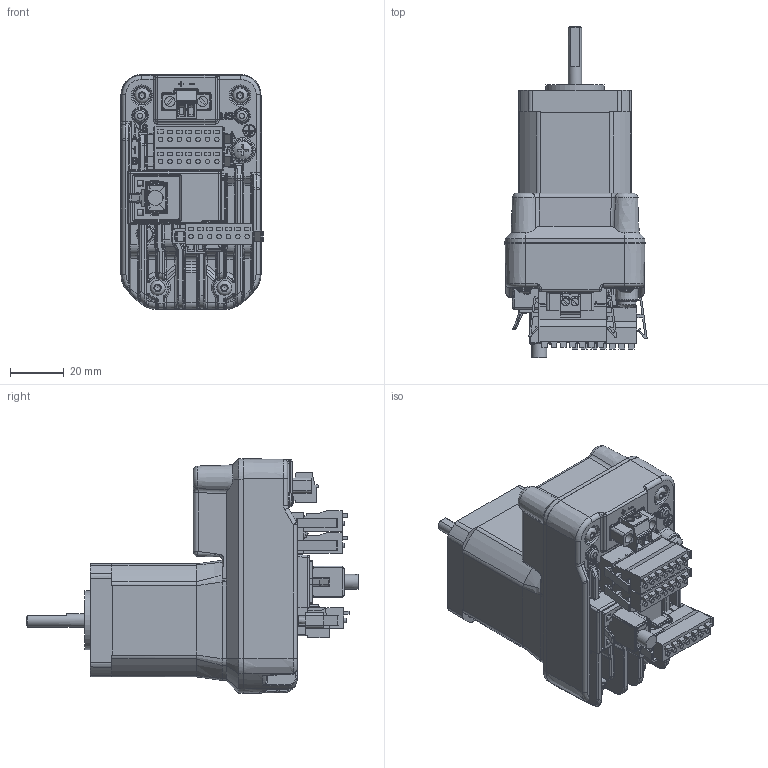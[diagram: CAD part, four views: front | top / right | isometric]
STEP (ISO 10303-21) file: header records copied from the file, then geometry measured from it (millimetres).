
FILE_DESCRIPTION(('LMDXE42-Triple-Stack Web Model'),'1');
FILE_NAME('C:/temp/LMDXE42-Triple-Stack Web Model.stp', '2013-09-24T14:32:31',('P. Bordua, 09/24/13'), ('Schneider Electric Motion USA'), 'KCM Version 1.1.794.0', 'Kubotek KeyCreator', 'Kubotek KeyCreator 2014 V12.0');
FILE_SCHEMA(('AUTOMOTIVE_DESIGN'));
Length unit declared in the file: inch
Products named in the file (6): Dinkle 0221-24-B3085308P, Pin-5 Keyed, Plug, 3.50mm Pitch, 7 x 1 Pos., Locking Tabs[Part1]; Dinkle 0221-24-B3085308P, Pin-2 Keyed, Plug, 3.50mm Pitch, 7 x 1 Pos., Locking Tabs[Part1]; Dinkle EC350VM-B3081302P, Plug, 3.50 mm, 2 x 1 Pos[Part1]; RJ45 Mate[Part1]
Bounding box: 53.03 x 123.94 x 87.6 mm (x, y, z)
Volume: 226943.5 mm3; surface area: 51204.7 mm2
Topology: 9 solids, 13 shells, 4293 faces, 10953 edges, 6940 vertices
Faces by surface type: plane 2401, cylinder 1007, bspline 607, cone 111, torus 100, sphere 67
Full cylindrical faces by diameter (mm): 1.6 x31, 1.611 x4, 1.686 x28, 2.449 x4, 2.5 x2, 3.505 x1, 3.792 x4, 5 x1, 5.004 x2, 5.588 x2, 5.6 x4, 6.858 x1, 7.62 x1, 9.525 x1, 21.996 x1
Entity records: 143980 total; most frequent: CARTESIAN_POINT 58845, ORIENTED_EDGE 16442, DIRECTION 14696, EDGE_CURVE 8221, VERTEX_POINT 5180, AXIS2_PLACEMENT_3D 4921, VECTOR 4854, LINE 4854
